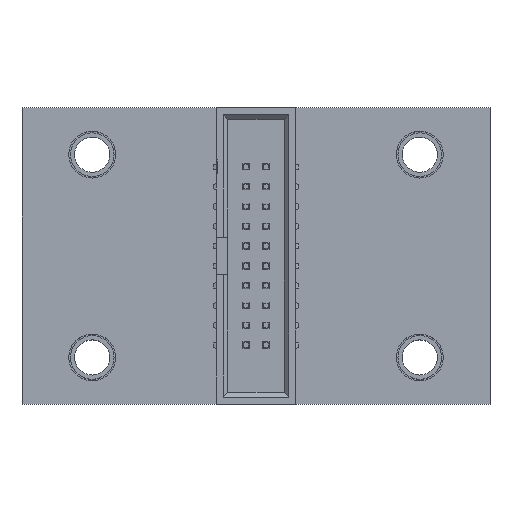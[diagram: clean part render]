
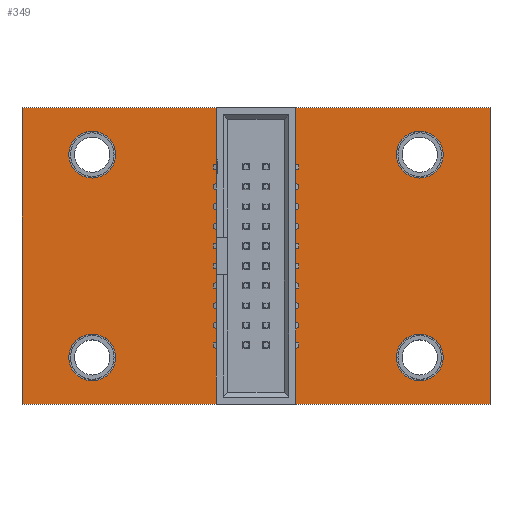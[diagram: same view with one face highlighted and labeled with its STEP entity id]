
A CAD part, top view. The second image highlights one B-rep face of the part: STEP entity #349.
In plain terms, the highlighted planar face has unit normal (0, 0, 1).
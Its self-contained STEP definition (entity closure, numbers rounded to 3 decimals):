
#76 = VERTEX_POINT('',#77);
#77 = CARTESIAN_POINT('',(-15.,-9.5,1.67));
#83 = EDGE_CURVE('',#76,#84,#86,.T.);
#84 = VERTEX_POINT('',#85);
#85 = CARTESIAN_POINT('',(15.,-9.5,1.67));
#86 = LINE('',#87,#88);
#87 = CARTESIAN_POINT('',(-15.,-9.5,1.67));
#88 = VECTOR('',#89,1.);
#89 = DIRECTION('',(1.,0.,0.));
#114 = EDGE_CURVE('',#84,#115,#117,.T.);
#115 = VERTEX_POINT('',#116);
#116 = CARTESIAN_POINT('',(15.,9.5,1.67));
#117 = LINE('',#118,#119);
#118 = CARTESIAN_POINT('',(15.,-9.5,1.67));
#119 = VECTOR('',#120,1.);
#120 = DIRECTION('',(0.,1.,0.));
#145 = EDGE_CURVE('',#115,#146,#148,.T.);
#146 = VERTEX_POINT('',#147);
#147 = CARTESIAN_POINT('',(-15.,9.5,1.67));
#148 = LINE('',#149,#150);
#149 = CARTESIAN_POINT('',(15.,9.5,1.67));
#150 = VECTOR('',#151,1.);
#151 = DIRECTION('',(-1.,0.,0.));
#176 = EDGE_CURVE('',#146,#76,#177,.T.);
#177 = LINE('',#178,#179);
#178 = CARTESIAN_POINT('',(-15.,9.5,1.67));
#179 = VECTOR('',#180,1.);
#180 = DIRECTION('',(0.,-1.,0.));
#200 = VERTEX_POINT('',#201);
#201 = CARTESIAN_POINT('',(-9.,-6.5,1.67));
#207 = EDGE_CURVE('',#200,#200,#208,.T.);
#208 = CIRCLE('',#209,1.5);
#209 = AXIS2_PLACEMENT_3D('',#210,#211,#212);
#210 = CARTESIAN_POINT('',(-10.5,-6.5,1.67));
#211 = DIRECTION('',(0.,0.,1.));
#212 = DIRECTION('',(1.,0.,0.));
#233 = VERTEX_POINT('',#234);
#234 = CARTESIAN_POINT('',(-9.,6.5,1.67));
#240 = EDGE_CURVE('',#233,#233,#241,.T.);
#241 = CIRCLE('',#242,1.5);
#242 = AXIS2_PLACEMENT_3D('',#243,#244,#245);
#243 = CARTESIAN_POINT('',(-10.5,6.5,1.67));
#244 = DIRECTION('',(0.,0.,1.));
#245 = DIRECTION('',(1.,0.,0.));
#266 = VERTEX_POINT('',#267);
#267 = CARTESIAN_POINT('',(12.,-6.5,1.67));
#273 = EDGE_CURVE('',#266,#266,#274,.T.);
#274 = CIRCLE('',#275,1.5);
#275 = AXIS2_PLACEMENT_3D('',#276,#277,#278);
#276 = CARTESIAN_POINT('',(10.5,-6.5,1.67));
#277 = DIRECTION('',(0.,0.,1.));
#278 = DIRECTION('',(1.,0.,0.));
#299 = VERTEX_POINT('',#300);
#300 = CARTESIAN_POINT('',(12.,6.5,1.67));
#306 = EDGE_CURVE('',#299,#299,#307,.T.);
#307 = CIRCLE('',#308,1.5);
#308 = AXIS2_PLACEMENT_3D('',#309,#310,#311);
#309 = CARTESIAN_POINT('',(10.5,6.5,1.67));
#310 = DIRECTION('',(0.,0.,1.));
#311 = DIRECTION('',(1.,0.,0.));
#349 = ADVANCED_FACE('',(#350,#356,#359,#362,#365),#368,.F.);
#350 = FACE_BOUND('',#351,.T.);
#351 = EDGE_LOOP('',(#352,#353,#354,#355));
#352 = ORIENTED_EDGE('',*,*,#83,.T.);
#353 = ORIENTED_EDGE('',*,*,#114,.T.);
#354 = ORIENTED_EDGE('',*,*,#145,.T.);
#355 = ORIENTED_EDGE('',*,*,#176,.T.);
#356 = FACE_BOUND('',#357,.F.);
#357 = EDGE_LOOP('',(#358));
#358 = ORIENTED_EDGE('',*,*,#207,.T.);
#359 = FACE_BOUND('',#360,.F.);
#360 = EDGE_LOOP('',(#361));
#361 = ORIENTED_EDGE('',*,*,#240,.T.);
#362 = FACE_BOUND('',#363,.F.);
#363 = EDGE_LOOP('',(#364));
#364 = ORIENTED_EDGE('',*,*,#273,.T.);
#365 = FACE_BOUND('',#366,.F.);
#366 = EDGE_LOOP('',(#367));
#367 = ORIENTED_EDGE('',*,*,#306,.T.);
#368 = PLANE('',#369);
#369 = AXIS2_PLACEMENT_3D('',#370,#371,#372);
#370 = CARTESIAN_POINT('',(-15.,-9.5,1.67));
#371 = DIRECTION('',(0.,0.,-1.));
#372 = DIRECTION('',(-1.,0.,0.));
